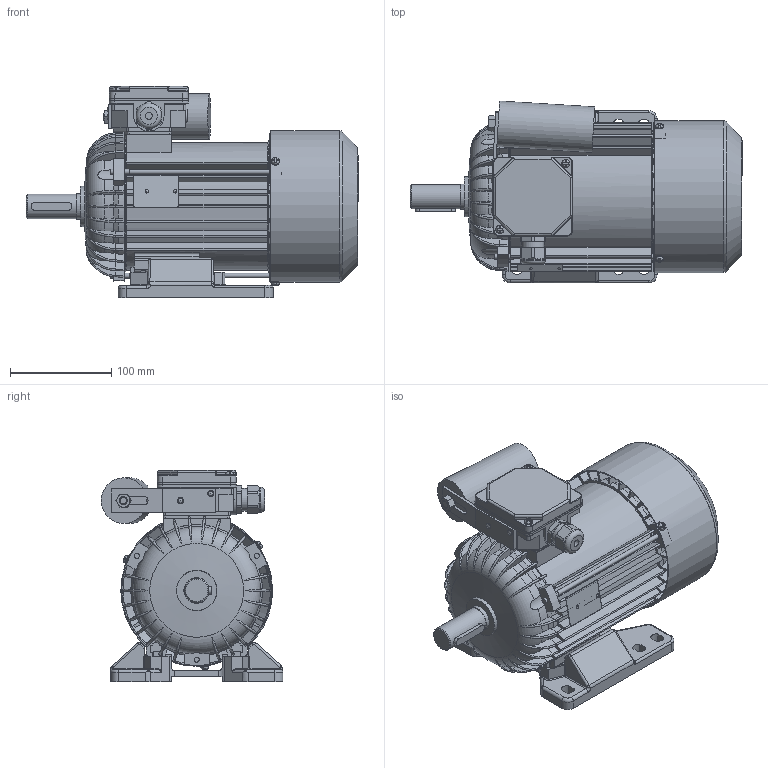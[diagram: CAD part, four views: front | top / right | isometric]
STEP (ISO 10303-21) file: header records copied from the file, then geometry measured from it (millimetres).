
FILE_DESCRIPTION( ( 'Unknown' ), '1' );
FILE_NAME( 'G:/Poczta Tk-1/STP/w.m.90/SEh90/SEh90-.L.stp', 'Unknown', ( 'K. Szlosek' ), ( 'BESEL S.A.' ), 'PSStep 17.0.49', 'Unknown', ' ' );
FILE_SCHEMA( ( 'AUTOMOTIVE_DESIGN { 1 0 10303 214 1 1 1 1 }' ) );
Length unit declared in the file: millimetre
Products named in the file (38): skrznka zaciskowa jednofazowa ; K4-2820 Uszczelka nr 2 Sh71,80; K2-1131 Podstawa skrzynki zaciskowej jednofazowa; K4-2999 Uchwyt kondensatora; Nit 4x12 po skróceniu; nakrętka M8; K4-0898 Tulejka uszczelniająca; Dławnica M20x1,5; K2-0860 Pokrywka skrzynki zaciskowej; Assem1; K1-1257 Kadłub S(E,M)h80-C i D; K3-7810 wał S(E,M)h90-.L; K2-1715 Przewietrznik; Wpust A8x7x40; K3-2964 Osłona przewietrznika Sh80,90; K4-2320 Uszczelka nr 1 Sh71,80; K3-7771 Tarcza łożyskowa P S(E,M)h90-L tymczasowy; Wkręt samogwintujący M4x8; Nitokołek A 2x6; K1-1130 Łapa wymiar 90; K4-4741 Tarcza N Sh 90 ; Łożysko 6205; Pierścień osadczy sprężyn. Z25; Tabliczka znamionowa 32x44; Śruba ściągająca E_M5x168; Kondensator zb 25-31,5uF Comar; Wkręt samogwintujący M4x12
Assembly tree (56 placements, depth 3):
  Assem1
    K1-1257 Kadłub S(E,M)h80-C i D
    K3-7810 wał S(E,M)h90-.L
    K2-1715 Przewietrznik
    Wpust A8x7x40
    K3-2964 Osłona przewietrznika Sh80,90
    K4-2320 Uszczelka nr 1 Sh71,80
    K3-7771 Tarcza łożyskowa P S(E,M)h90-L tymczasowy
    Wkręt samogwintujący M4x8  x3
    Nitokołek A 2x6  x2
    K1-1130 Łapa wymiar 90
    K4-4741 Tarcza N Sh 90 
    Łożysko 6205  x2
    Łożysko 6205  x2
    Łożysko 6205  x2
    Łożysko 6205  x2
    Łożysko 6205  x2
    Łożysko 6205  x2
    Łożysko 6205  x2
    Łożysko 6205  x2
    Łożysko 6205  x2
    Łożysko 6205  x2
    Łożysko 6205  x2
    Łożysko 6205  x2
    Pierścień osadczy sprężyn. Z25
    Tabliczka znamionowa 32x44
    Śruba ściągająca E_M5x168  x3
    Kondensator zb 25-31,5uF Comar
    Wkręt samogwintujący M4x12  x2
    skrznka zaciskowa jednofazowa 
      K4-2820 Uszczelka nr 2 Sh71,80
      K2-1131 Podstawa skrzynki zaciskowej jednofazowa
      K4-2999 Uchwyt kondensatora
      Nit 4x12 po skróceniu  x2
      nakrętka M8
      K4-0898 Tulejka uszczelniająca
      Dławnica M20x1,5
      K2-0860 Pokrywka skrzynki zaciskowej
Bounding box: 327.8 x 179.3 x 208.5 mm (x, y, z)
Volume: 1193458.3 mm3; surface area: 705655.5 mm2
Topology: 55 solids, 75 shells, 3616 faces, 10195 edges, 6589 vertices
Faces by surface type: plane 1717, cylinder 1133, bspline 327, cone 217, torus 164, sphere 58
Full cylindrical faces by diameter (mm): 2 x4, 2.4 x2, 3 x1, 3.7 x11, 4 x8, 4.134 x3, 4.3 x2, 4.5 x3, 4.6 x3, 4.8 x4, 5 x7, 5.5 x3, 6 x2, 6.5 x5, 6.647 x1, 7 x1, 8 x10, 10 x2, 18.376 x1, 18.38 x1, 19.3 x1, 19.5 x1, 19.9 x1, 20 x1, 22.3 x1, 23.9 x1, 24 x1, 25 x6, 25.4 x2, 25.8 x1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
Entity records: 196211 total; most frequent: CARTESIAN_POINT 87386, ORIENTED_EDGE 18824, DIRECTION 17091, EDGE_CURVE 9412, VERTEX_POINT 6232, AXIS2_PLACEMENT_3D 6201, LINE 4689, VECTOR 4689
